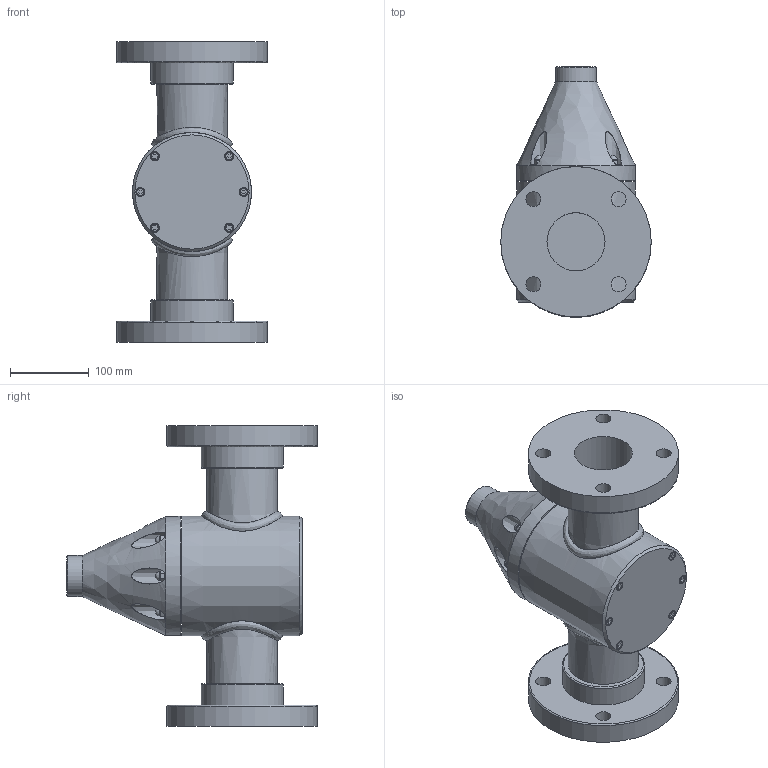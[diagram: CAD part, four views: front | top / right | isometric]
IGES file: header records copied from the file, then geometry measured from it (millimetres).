
Start section: SolidWorks IGES file using analytic representation for surfaces
Global section: file name: F:\Griffco-Valve\Griffco_current-projects\GV_web-files_2015\G Series Flanged\GPR3000-FLNG.IGS; native system: SolidWorks 2014; preprocessor: SolidWorks 2014; author: Dan; date: 160212.042849; units: inch
Bounding box: 190.5 x 317.5 x 381 mm (x, y, z)
Surface area: 388626.3 mm2 (no closed solid volume)
Topology: 0 solids, 0 shells, 208 faces, 813 edges, 742 vertices
Faces by surface type: bspline 133, revolution 75
